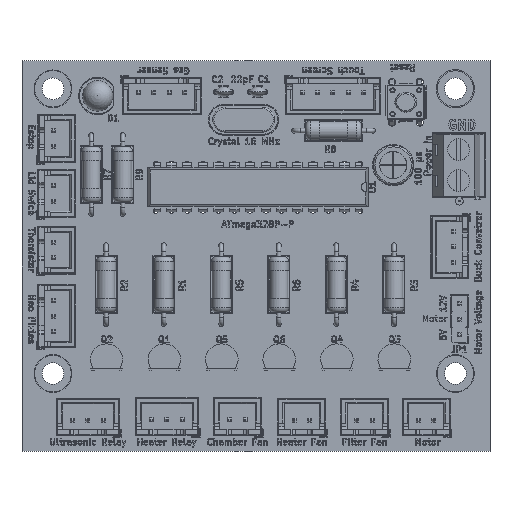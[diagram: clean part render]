
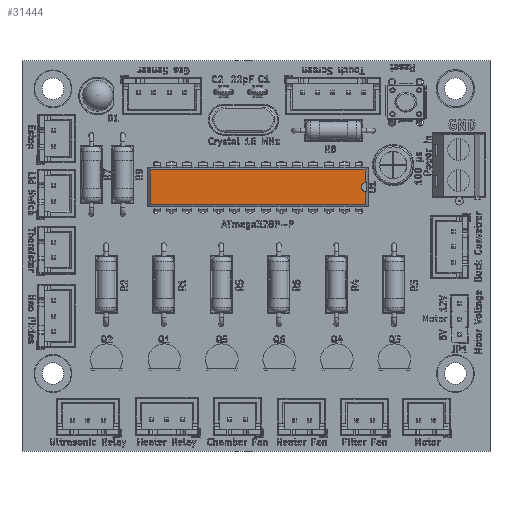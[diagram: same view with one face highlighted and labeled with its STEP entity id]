
A CAD part, top view. The second image highlights one B-rep face of the part: STEP entity #31444.
In plain terms, the highlighted planar face has unit normal (0, 0, 1).
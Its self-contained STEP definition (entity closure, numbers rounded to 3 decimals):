
#25462 = VERTEX_POINT('',#25463);
#25463 = CARTESIAN_POINT('',(6.586,0.871,3.68));
#25468 = EDGE_CURVE('',#25469,#25462,#25471,.T.);
#25469 = VERTEX_POINT('',#25470);
#25470 = CARTESIAN_POINT('',(6.586,-33.891,3.68));
#25471 = LINE('',#25472,#25473);
#25472 = CARTESIAN_POINT('',(6.586,-33.891,3.68));
#25473 = VECTOR('',#25474,1.);
#25474 = DIRECTION('',(0.,1.,0.));
#28228 = VERTEX_POINT('',#28229);
#28229 = CARTESIAN_POINT('',(1.034,0.871,3.68));
#28234 = EDGE_CURVE('',#28235,#28228,#28237,.T.);
#28235 = VERTEX_POINT('',#28236);
#28236 = CARTESIAN_POINT('',(3.064,0.871,3.68));
#28237 = LINE('',#28238,#28239);
#28238 = CARTESIAN_POINT('',(6.586,0.871,3.68));
#28239 = VECTOR('',#28240,1.);
#28240 = DIRECTION('',(-1.,0.,0.));
#28455 = VERTEX_POINT('',#28456);
#28456 = CARTESIAN_POINT('',(4.556,0.871,3.68));
#28560 = EDGE_CURVE('',#25462,#28455,#28561,.T.);
#28561 = LINE('',#28562,#28563);
#28562 = CARTESIAN_POINT('',(6.586,0.871,3.68));
#28563 = VECTOR('',#28564,1.);
#28564 = DIRECTION('',(-1.,0.,0.));
#28674 = VERTEX_POINT('',#28675);
#28675 = CARTESIAN_POINT('',(1.034,-33.891,3.68));
#28680 = EDGE_CURVE('',#28228,#28674,#28681,.T.);
#28681 = LINE('',#28682,#28683);
#28682 = CARTESIAN_POINT('',(1.034,0.871,3.68));
#28683 = VECTOR('',#28684,1.);
#28684 = DIRECTION('',(0.,-1.,0.));
#31433 = EDGE_CURVE('',#28674,#25469,#31434,.T.);
#31434 = LINE('',#31435,#31436);
#31435 = CARTESIAN_POINT('',(1.034,-33.891,3.68));
#31436 = VECTOR('',#31437,1.);
#31437 = DIRECTION('',(1.,0.,0.));
#31444 = ADVANCED_FACE('',(#31445),#31468,.F.);
#31445 = FACE_BOUND('',#31446,.F.);
#31446 = EDGE_LOOP('',(#31447,#31448,#31449,#31450,#31451,#31460,#31467)
  );
#31447 = ORIENTED_EDGE('',*,*,#25468,.F.);
#31448 = ORIENTED_EDGE('',*,*,#31433,.F.);
#31449 = ORIENTED_EDGE('',*,*,#28680,.F.);
#31450 = ORIENTED_EDGE('',*,*,#28234,.F.);
#31451 = ORIENTED_EDGE('',*,*,#31452,.F.);
#31452 = EDGE_CURVE('',#31453,#28235,#31455,.T.);
#31453 = VERTEX_POINT('',#31454);
#31454 = CARTESIAN_POINT('',(3.81,0.196,3.68));
#31455 = CIRCLE('',#31456,0.75);
#31456 = AXIS2_PLACEMENT_3D('',#31457,#31458,#31459);
#31457 = CARTESIAN_POINT('',(3.81,0.946,3.68));
#31458 = DIRECTION('',(0.,-0.,-1.));
#31459 = DIRECTION('',(0.,-1.,0.));
#31460 = ORIENTED_EDGE('',*,*,#31461,.F.);
#31461 = EDGE_CURVE('',#28455,#31453,#31462,.T.);
#31462 = CIRCLE('',#31463,0.75);
#31463 = AXIS2_PLACEMENT_3D('',#31464,#31465,#31466);
#31464 = CARTESIAN_POINT('',(3.81,0.946,3.68));
#31465 = DIRECTION('',(0.,-0.,-1.));
#31466 = DIRECTION('',(0.,-1.,0.));
#31467 = ORIENTED_EDGE('',*,*,#28560,.F.);
#31468 = PLANE('',#31469);
#31469 = AXIS2_PLACEMENT_3D('',#31470,#31471,#31472);
#31470 = CARTESIAN_POINT('',(6.586,-33.891,3.68));
#31471 = DIRECTION('',(-0.,0.,-1.));
#31472 = DIRECTION('',(-0.158,0.987,0.));
